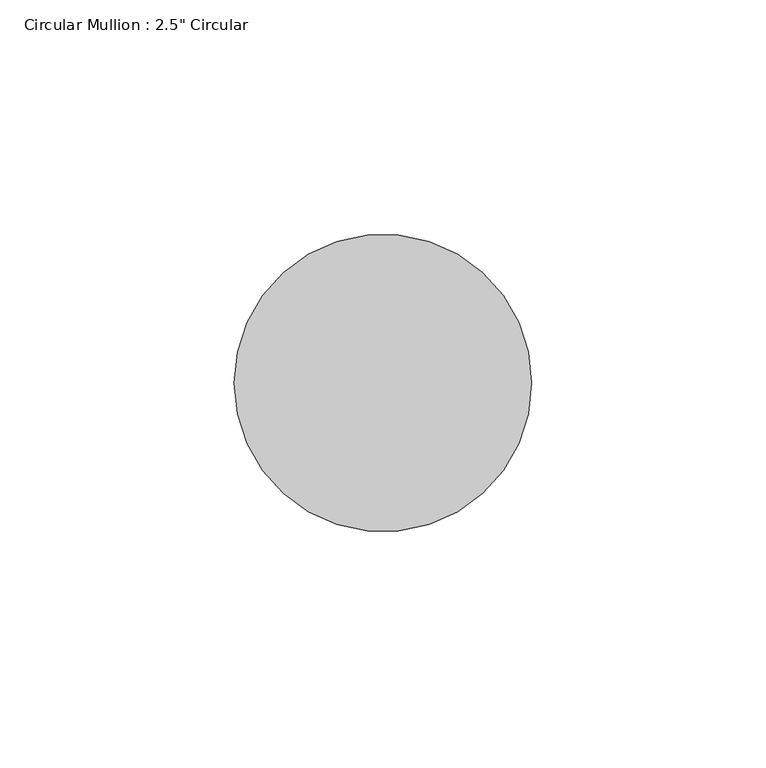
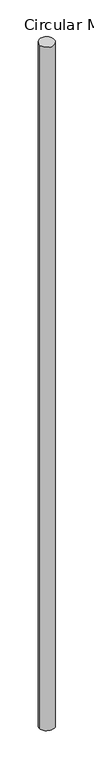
"""IFC4 building model written with IfcOpenShell, lengths in millimetres: member geometry."""

from ifc_helpers import new_model, si_unit, frame, origin, origin_with_axes, place, context, project, spatial, ellipse_curve, source, transform, mapped, element, save
from ifc_brep_helpers import plane_surface, cylinder_surface, advanced_brep


def member_74919046(model_context):
    return source(origin(), model_context, "Body", "AdvancedBrep", [
        advanced_brep(
        [(-31.75, 0.0, -0.0380392), (31.75, 0.0, 0.0380392), (31.75, 0.0, -3045.2490919), (-31.75, 0.0, -3045.114311)],
        [
            (0, 1, ellipse_curve(frame((0.0, 0.0, 0.0), z_axis=(0.0011964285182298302, 0.052576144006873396, -0.9986162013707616), x_axis=(0.02271873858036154, 0.9983577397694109, 0.05258975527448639)), 31.7939965, 31.75)),
            (1, 2),
            (2, 3, ellipse_curve(frame((0.0, 0.0, -3045.1817015), z_axis=(0.002119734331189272, 0.05130884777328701, 0.9986805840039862), x_axis=(-0.04122355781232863, -0.997829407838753, 0.05135261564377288)), 31.7919468, 31.75)),
            (3, 0),
            (1, 0, ellipse_curve(frame((0.0, 0.0, 0.0), z_axis=(0.0011964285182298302, 0.052576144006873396, -0.9986162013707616), x_axis=(0.02271873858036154, 0.9983577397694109, 0.05258975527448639)), 31.7939965, 31.75)),
            (3, 2, ellipse_curve(frame((0.0, 0.0, -3045.1817015), z_axis=(0.002119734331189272, 0.05130884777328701, 0.9986805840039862), x_axis=(-0.04122355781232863, -0.997829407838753, 0.05135261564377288)), 31.7919468, 31.75)),
        ],
        [
            cylinder_surface(origin_with_axes(), 31.75),
            plane_surface(frame((304.7211117, -6.9342671, 0.0), z_axis=(-0.0011964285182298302, -0.052576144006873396, 0.9986162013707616), x_axis=(-0.022718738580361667, -0.9983577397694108, -0.05258975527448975))),
            plane_surface(frame((304.5402187, -12.5815407, -3045.1817015), z_axis=(-0.0021197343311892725, -0.05130884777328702, -0.9986805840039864), x_axis=(-0.04122355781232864, -0.9978294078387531, 0.05135261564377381))),
        ],
        [
            (0, [[1, 2, 3, 4]]),
            (0, [[5, -4, 6, -2]]),
            (1, [[-1, -5]]),
            (2, [[-6, -3]]),
        ],
    ),
    ])


if __name__ == "__main__":
    model = new_model("IFC4")
    model_context = context("Model", 3, world=origin())
    ifc_project = project(units=[si_unit("LENGTHUNIT", "METRE", prefix="MILLI")], contexts=[model_context])
    site = spatial("IfcSite", under=ifc_project)
    building = spatial("IfcBuilding", under=site)
    placement = place(None, origin())
    member_shape = member_74919046(model_context)
    element("IfcMember", 1, ObjectType="Circular Mullion : 2.5\" Circular", at=placement, inside=building, context=model_context, shape_type="MappedRepresentation", body=[
        mapped(member_shape, transform((0.0, 0.0, 0.0), x_axis=(1.0, 0.0, 0.0), y_axis=(0.0, 1.0, 0.0), z_axis=(0.0, 0.0, 1.0))),
    ])
    save(model, "model.ifc")
